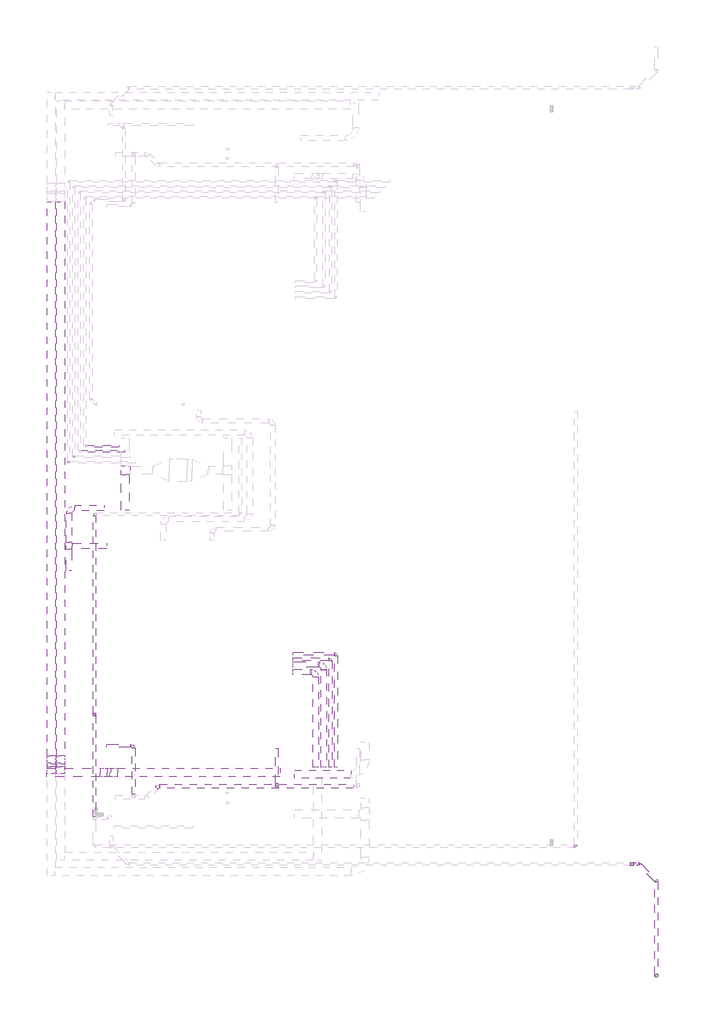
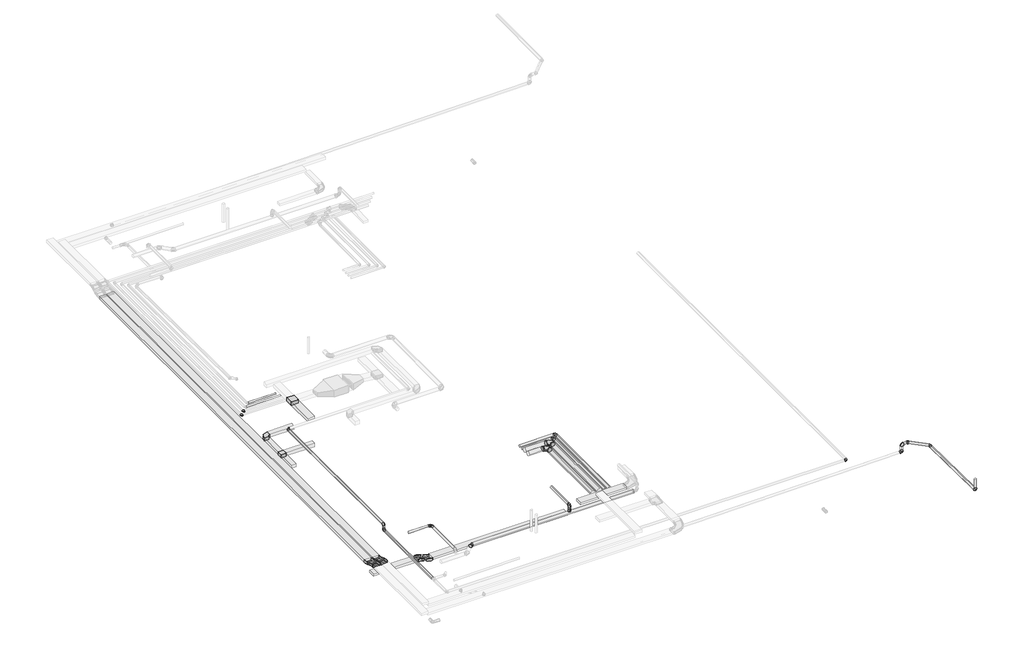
# One storey, part 2 of 5: 18 pipe segments, 15 pipe fittings, 10 duct segments, 8 cable carrier segments, 7 duct fittings, 6 cable carrier fittings.
"""IFC4 building model written with IfcOpenShell, lengths in millimetres."""

from ifc_helpers import new_model, si_unit, point, frame, frame_2d, origin, place, context, project, spatial, polyline, circle_curve, trimmed, segment, composite_curve, outline, extrude, transform, mapped, element, save
from components import m_codo_vertical_exterior_de_canal_el_547dc688, m_codo_vertical_interior_de_canal_el_a775c4ca, apt_33348139, ext_db029bdf, ext_95de42ea, m_codo_rectangular_radio_apt_1_w_a605e9b7, m_codo_redondo_ext_1_d_96ea52f9, m_codo_redondo_ext_1_d_5003ae0d, pipe_fitting_0b7fd5a4, pipe_fitting_aab77541, pipe_fitting_0af9fee6, pipe_fitting_39727cd3, pipe_fitting_3b77712d, pipe_fitting_2358b14d, pipe_fitting_3a68447e, pipe_fitting_87aeffad

model = new_model("IFC4")

# Units and contexts
model_context = context("Model", 3, world=origin())
ifc_project = project(units=[si_unit("LENGTHUNIT", "METRE", prefix="MILLI")], contexts=[model_context])

# Site, building, storey
site = spatial("IfcSite", under=ifc_project)
building = spatial("IfcBuilding", under=site)
storey = spatial("IfcBuildingStorey", under=building, Name="Nivell 04 P04_PP", Elevation=22410.0)

# Cable carrier fittings
placement = place(None, origin())
m_codo_vertical_exterior_de_canal_el_shape = m_codo_vertical_exterior_de_canal_el_547dc688(model_context)
element("IfcCableCarrierFitting", 1, ObjectType="M_Codo vertical exterior de canal : EL", at=placement, inside=storey, context=model_context, shape_type="MappedRepresentation", body=[
    mapped(m_codo_vertical_exterior_de_canal_el_shape, transform((5357.0671065, -15355.3999814, 25660.0), x_axis=(0.0, 1.0, 0.0), y_axis=(0.0, 0.0, -1.0), z_axis=(-1.0, 0.0, 0.0))),
])
element("IfcCableCarrierFitting", 2, ObjectType="M_Codo vertical exterior de canal : EL", at=placement, inside=storey, context=model_context, shape_type="MappedRepresentation", body=[
    mapped(m_codo_vertical_exterior_de_canal_el_shape, transform((5008.2381883, -15355.3999814, 25660.0), x_axis=(0.0, -0.9238795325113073, 0.38268343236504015), y_axis=(0.0, -0.38268343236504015, -0.9238795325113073), z_axis=(1.0, 0.0, 0.0))),
])
element("IfcCableCarrierFitting", 3, ObjectType="M_Codo vertical exterior de canal : EL", at=placement, inside=storey, context=model_context, shape_type="MappedRepresentation", body=[
    mapped(m_codo_vertical_exterior_de_canal_el_shape, transform((6956.7785309, -15459.2996833, 25310.0), x_axis=(1.0, 0.0, 0.0), y_axis=(0.0, 0.0, -1.0), z_axis=(0.0, 1.0, 0.0))),
])
m_codo_vertical_interior_de_canal_el_shape = m_codo_vertical_interior_de_canal_el_a775c4ca(model_context)
element("IfcCableCarrierFitting", 4, ObjectType="M_Codo vertical interior de canal : EL", at=placement, inside=storey, context=model_context, shape_type="MappedRepresentation", body=[
    mapped(m_codo_vertical_interior_de_canal_el_shape, transform((5357.0671065, -14993.267947, 25510.0), x_axis=(0.0, 0.9238795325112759, -0.38268343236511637), y_axis=(0.0, 0.38268343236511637, 0.9238795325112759), z_axis=(1.0, 0.0, 0.0))),
])
element("IfcCableCarrierFitting", 5, ObjectType="M_Codo vertical interior de canal : EL", at=placement, inside=storey, context=model_context, shape_type="MappedRepresentation", body=[
    mapped(m_codo_vertical_interior_de_canal_el_shape, transform((5008.2381883, -14993.267947, 25510.0), x_axis=(0.0, -1.0, 0.0), y_axis=(0.0, 0.0, 1.0), z_axis=(-1.0, 0.0, 0.0))),
])
element("IfcCableCarrierFitting", 6, ObjectType="M_Codo vertical interior de canal : EL", at=placement, inside=storey, context=model_context, shape_type="MappedRepresentation", body=[
    mapped(m_codo_vertical_interior_de_canal_el_shape, transform((7318.9105653, -15459.2996833, 25160.0), x_axis=(0.9238795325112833, 0.0, -0.38268343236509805), y_axis=(0.38268343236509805, 0.0, 0.9238795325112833), z_axis=(0.0, -1.0, 0.0))),
])

# Cable carrier segments
element("IfcCableCarrierSegment", 7, ObjectType="EL", at=placement, inside=storey, context=model_context, shape_type="SweptSolid", body=[
    extrude(outline(polyline([(6812.1592023, -15309.2996833), (6812.1592023, -15609.2996833), (4831.7785309, -15609.2996833), (4831.7785309, -15309.2996833), (6812.1592023, -15309.2996833)])), frame((0.0, 0.0, 25260.0), z_axis=(0.0, 0.0, 1.0), x_axis=(1.0, 0.0, 0.0)), (0.0, 0.0, 1.0), 100.0),
])
element("IfcCableCarrierSegment", 8, ObjectType="EL", at=placement, inside=storey, context=model_context, shape_type="SweptSolid", body=[
    extrude(outline(polyline([(16089.6624278, -15371.1304394), (16089.6624278, -15671.1304394), (14011.0671065, -15671.1304394), (14011.0671065, -15371.1304394), (16089.6624278, -15371.1304394)])), frame((0.0, 0.0, 25460.0), z_axis=(0.0, 0.0, 1.0), x_axis=(1.0, 0.0, 0.0)), (0.0, 0.0, 1.0), 100.0),
])
element("IfcCableCarrierSegment", 9, ObjectType="EL", at=placement, inside=storey, context=model_context, shape_type="SweptSolid", body=[
    extrude(outline(polyline([(0.0, -300.0), (0.0, 0.0), (102.7302323, 0.0), (102.7302323, -300.0), (0.0, -300.0)])), frame((5207.0671065, -15240.9233153, 25558.4626023), z_axis=(0.0, 0.38268343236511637, 0.9238795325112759), x_axis=(0.0, 0.9238795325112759, -0.38268343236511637)), (0.0, 0.0, 1.0), 100.0),
])
element("IfcCableCarrierSegment", 10, ObjectType="EL", at=placement, inside=storey, context=model_context, shape_type="SweptSolid", body=[
    extrude(outline(polyline([(5507.0671065, -14848.6486184), (5207.0671065, -14848.6486184), (5207.0671065, 5634.423571), (5507.0671065, 5634.423571), (5507.0671065, -14848.6486184)])), frame((0.0, 0.0, 25460.0), z_axis=(0.0, 0.0, 1.0), x_axis=(1.0, 0.0, 0.0)), (0.0, 0.0, 1.0), 100.0),
])
element("IfcCableCarrierSegment", 11, ObjectType="EL", at=placement, inside=storey, context=model_context, shape_type="SweptSolid", body=[
    extrude(outline(polyline([(4858.2381883, 5634.423571), (5158.2381883, 5634.423571), (5158.2381883, -14848.6486184), (4858.2381883, -14848.6486184), (4858.2381883, 5634.423571)])), frame((0.0, 0.0, 25460.0), z_axis=(0.0, 0.0, 1.0), x_axis=(1.0, 0.0, 0.0)), (0.0, 0.0, 1.0), 100.0),
])
element("IfcCableCarrierSegment", 12, ObjectType="EL", at=placement, inside=storey, context=model_context, shape_type="SweptSolid", body=[
    extrude(outline(polyline([(0.0, -300.0), (0.0, 0.0), (102.7302323, 0.0), (102.7302323, -300.0), (0.0, -300.0)])), frame((5158.2381883, -15146.0129563, 25519.1494444), z_axis=(0.0, 0.3826834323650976, 0.9238795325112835), x_axis=(0.0, -0.9238795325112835, 0.3826834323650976)), (0.0, 0.0, 1.0), 100.0),
])
element("IfcCableCarrierSegment", 13, ObjectType="EL", at=placement, inside=storey, context=model_context, shape_type="SweptSolid", body=[
    extrude(outline(polyline([(7463.5298938, -15609.2996833), (7463.5298938, -15309.2996833), (13469.9876148, -15309.2996833), (13469.9876148, -15609.2996833), (7463.5298938, -15609.2996833)])), frame((0.0, 0.0, 25110.0), z_axis=(0.0, 0.0, 1.0), x_axis=(1.0, 0.0, 0.0)), (0.0, 0.0, 1.0), 100.0),
])
element("IfcCableCarrierSegment", 14, ObjectType="EL", at=placement, inside=storey, context=model_context, shape_type="SweptSolid", body=[
    extrude(outline(polyline([(0.0, -300.0), (0.0, 0.0), (102.7302323, 0.0), (102.7302323, -300.0), (0.0, -300.0)])), frame((7071.255197, -15309.2996833, 25208.4626023), z_axis=(0.38268343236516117, 0.0, 0.9238795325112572), x_axis=(0.9238795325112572, 0.0, -0.38268343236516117)), (0.0, 0.0, 1.0), 100.0),
])

# Duct fittings
apt_shape = apt_33348139(model_context)
element("IfcDuctFitting", 15, ObjectType="M_Te rectangular : APT", at=placement, inside=storey, context=model_context, shape_type="MappedRepresentation", body=[
    mapped(apt_shape, transform((5665.7790997, -7084.7059364, 25560.0), x_axis=(0.0, 1.0, 0.0), y_axis=(-1.0, 0.0, 0.0), z_axis=(0.0, 0.0, 1.0))),
])
ext_shape = ext_db029bdf(model_context)
element("IfcDuctFitting", 16, ObjectType="M_Toma de derivación redonda : EXT", at=placement, inside=storey, context=model_context, shape_type="MappedRepresentation", body=[
    mapped(ext_shape, transform((13350.5896993, -15972.9719502, 25590.0), x_axis=(0.0, 0.0, 1.0), y_axis=(-1.0, 0.0, 0.0), z_axis=(0.0, -1.0, 0.0))),
])
ext_2_shape = ext_95de42ea(model_context)
element("IfcDuctFitting", 17, ObjectType="M_Te rectangular : EXT", at=placement, inside=storey, context=model_context, shape_type="MappedRepresentation", body=[
    mapped(ext_2_shape, transform((7746.1618177, -4289.990201, 25677.1198525), x_axis=(0.0, 1.0, 0.0), y_axis=(-1.0, 0.0, 0.0), z_axis=(0.0, 0.0, 1.0))),
])
m_codo_rectangular_radio_apt_1_w_shape = m_codo_rectangular_radio_apt_1_w_a605e9b7(model_context)
element("IfcDuctFitting", 18, ObjectType="M_Codo rectangular - Radio : APT_1 W", at=placement, inside=storey, context=model_context, shape_type="MappedRepresentation", body=[
    mapped(m_codo_rectangular_radio_apt_1_w_shape, transform((5665.7790997, -5684.7059364, 25560.0), x_axis=(-1.0, 0.0, 0.0), y_axis=(0.0, -1.0, 0.0), z_axis=(0.0, 0.0, 1.0))),
])
m_codo_redondo_ext_1_d_shape = m_codo_redondo_ext_1_d_96ea52f9(model_context)
element("IfcDuctFitting", 19, ObjectType="M_Codo redondo : EXT_1 D", at=placement, inside=storey, context=model_context, shape_type="MappedRepresentation", body=[
    mapped(m_codo_redondo_ext_1_d_shape, transform((8050.5896993, -14471.4839002, 25860.0), x_axis=(1.0, 0.0, 0.0), y_axis=(0.0, 1.0, 0.0), z_axis=(0.0, 0.0, 1.0))),
])
element("IfcDuctFitting", 20, ObjectType="M_Codo redondo : EXT_1 D", at=placement, inside=storey, context=model_context, shape_type="MappedRepresentation", body=[
    mapped(m_codo_redondo_ext_1_d_shape, transform((13350.5896993, -15972.9719502, 25860.0), x_axis=(0.0, -1.0, 0.0), y_axis=(0.0, 0.0, 1.0), z_axis=(-1.0, 0.0, 0.0))),
])
m_codo_redondo_ext_1_d_2_shape = m_codo_redondo_ext_1_d_5003ae0d(model_context)
element("IfcDuctFitting", 21, ObjectType="M_Codo redondo : EXT_1 D", at=placement, inside=storey, context=model_context, shape_type="MappedRepresentation", body=[
    mapped(m_codo_redondo_ext_1_d_2_shape, transform((8950.5896993, -15972.9719502, 25515.0), x_axis=(0.7071067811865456, 0.7071067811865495, 0.0), y_axis=(-0.7071067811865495, 0.7071067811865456, 0.0), z_axis=(0.0, 0.0, 1.0))),
])

# Duct segments
element("IfcDuctSegment", 22, ObjectType="APT_Fibra de vidre rígida", at=placement, inside=storey, context=model_context, shape_type="SweptSolid", body=[
    extrude(outline(polyline([(7065.7790997, -6984.7059364), (7065.7790997, -7184.7059364), (5790.7790997, -7184.7059364), (5790.7790997, -6984.7059364), (7065.7790997, -6984.7059364)])), frame((0.0, 0.0, 25485.0), z_axis=(0.0, 0.0, 1.0), x_axis=(1.0, 0.0, 0.0)), (0.0, 0.0, 1.0), 150.0),
])
element("IfcDuctSegment", 23, ObjectType="APT_Fibra de vidre rígida", at=placement, inside=storey, context=model_context, shape_type="SweptSolid", body=[
    extrude(outline(polyline([(5765.7790997, -6959.7059364), (5565.7790997, -6959.7059364), (5565.7790997, -5884.7059364), (5765.7790997, -5884.7059364), (5765.7790997, -6959.7059364)])), frame((0.0, 0.0, 25485.0), z_axis=(0.0, 0.0, 1.0), x_axis=(1.0, 0.0, 0.0)), (0.0, 0.0, 1.0), 150.0),
])
element("IfcDuctSegment", 24, ObjectType="APT_Fibra de vidre rígida", at=placement, inside=storey, context=model_context, shape_type="SweptSolid", body=[
    extrude(outline(polyline([(5865.7790997, -5784.7059364), (5865.7790997, -5584.7059364), (6965.7790997, -5584.7059364), (6965.7790997, -5784.7059364), (5865.7790997, -5784.7059364)])), frame((0.0, 0.0, 25485.0), z_axis=(0.0, 0.0, 1.0), x_axis=(1.0, 0.0, 0.0)), (0.0, 0.0, 1.0), 150.0),
])
element("IfcDuctSegment", 25, ObjectType="APT_Fibra de vidre rígida", at=placement, inside=storey, context=model_context, shape_type="SweptSolid", body=[
    extrude(outline(polyline([(5565.7790997, -7209.7059364), (5765.7790997, -7209.7059364), (5765.7790997, -8009.7059364), (5565.7790997, -8009.7059364), (5565.7790997, -7209.7059364)])), frame((0.0, 0.0, 25485.0), z_axis=(0.0, 0.0, 1.0), x_axis=(1.0, 0.0, 0.0)), (0.0, 0.0, 1.0), 150.0),
])
element("IfcDuctSegment", 26, ObjectType="EXT_Acer Galvanitzat - Rígid", at=placement, inside=storey, context=model_context, shape_type="SweptSolid", body=[
    extrude(outline(composite_curve([segment(trimmed(circle_curve(frame_2d((-15972.9719502, 25515.0)), 75.0), [point((-15897.9719502, 25515.0))], [point((-15972.9719502, 25440.0))], False, "CARTESIAN"), True, "CONTINUOUS"), segment(trimmed(circle_curve(frame_2d((-15972.9719502, 25515.0)), 75.0), [point((-15972.9719502, 25440.0))], [point((-16047.9719502, 25515.0))], False, "CARTESIAN"), True, "CONTINUOUS"), segment(trimmed(circle_curve(frame_2d((-15972.9719502, 25515.0)), 75.0), [point((-16047.9719502, 25515.0))], [point((-15972.9719502, 25590.0))], False, "CARTESIAN"), True, "CONTINUOUS"), segment(trimmed(circle_curve(frame_2d((-15972.9719502, 25515.0)), 75.0), [point((-15972.9719502, 25590.0))], [point((-15897.9719502, 25515.0))], False, "CARTESIAN"), True, "CONTINUOUS")], self_intersect=False)), frame((9012.7217336, 0.0, 0.0), z_axis=(1.0, 0.0, 0.0), x_axis=(0.0, 1.0, 0.0)), (0.0, 0.0, 1.0), 7177.5126266),
])
element("IfcDuctSegment", 27, ObjectType="EXT_Acer Galvanitzat - Rígid", at=placement, inside=storey, context=model_context, shape_type="SweptSolid", body=[
    extrude(outline(composite_curve([segment(trimmed(circle_curve(frame_2d((-14471.4839002, 25860.0)), 50.0), [point((-14521.4839002, 25860.0))], [point((-14471.4839002, 25910.0))], False, "CARTESIAN"), True, "CONTINUOUS"), segment(trimmed(circle_curve(frame_2d((-14471.4839002, 25860.0)), 50.0), [point((-14471.4839002, 25910.0))], [point((-14421.4839002, 25860.0))], False, "CARTESIAN"), True, "CONTINUOUS"), segment(trimmed(circle_curve(frame_2d((-14471.4839002, 25860.0)), 50.0), [point((-14421.4839002, 25860.0))], [point((-14471.4839002, 25810.0))], False, "CARTESIAN"), True, "CONTINUOUS"), segment(trimmed(circle_curve(frame_2d((-14471.4839002, 25860.0)), 50.0), [point((-14471.4839002, 25810.0))], [point((-14521.4839002, 25860.0))], False, "CARTESIAN"), True, "CONTINUOUS")], self_intersect=False)), frame((7050.5896993, 0.0, 0.0), z_axis=(1.0, 0.0, 0.0), x_axis=(0.0, 1.0, 0.0)), (0.0, 0.0, 1.0), 900.0),
])
element("IfcDuctSegment", 28, ObjectType="EXT_Acer Galvanitzat - Rígid", at=placement, inside=storey, context=model_context, shape_type="SweptSolid", body=[
    extrude(outline(composite_curve([segment(trimmed(circle_curve(frame_2d((25860.0, 8050.5896993)), 50.0), [point((25860.0, 8100.5896993))], [point((25910.0, 8050.5896993))], False, "CARTESIAN"), True, "CONTINUOUS"), segment(trimmed(circle_curve(frame_2d((25860.0, 8050.5896993)), 50.0), [point((25910.0, 8050.5896993))], [point((25860.0, 8000.5896993))], False, "CARTESIAN"), True, "CONTINUOUS"), segment(trimmed(circle_curve(frame_2d((25860.0, 8050.5896993)), 50.0), [point((25860.0, 8000.5896993))], [point((25810.0, 8050.5896993))], False, "CARTESIAN"), True, "CONTINUOUS"), segment(trimmed(circle_curve(frame_2d((25860.0, 8050.5896993)), 50.0), [point((25810.0, 8050.5896993))], [point((25860.0, 8100.5896993))], False, "CARTESIAN"), True, "CONTINUOUS")], self_intersect=False)), frame((0.0, -16269.0292533, 0.0), z_axis=(0.0, 1.0, 0.0), x_axis=(0.0, 0.0, 1.0)), (0.0, 0.0, 1.0), 1697.545353),
])
element("IfcDuctSegment", 29, ObjectType="EXT_Acer Galvanitzat - Rígid", at=placement, inside=storey, context=model_context, shape_type="SweptSolid", body=[
    extrude(outline(composite_curve([segment(trimmed(circle_curve(frame_2d((25860.0, 13350.5896993)), 50.0), [point((25860.0, 13400.5896993))], [point((25910.0, 13350.5896993))], False, "CARTESIAN"), True, "CONTINUOUS"), segment(trimmed(circle_curve(frame_2d((25860.0, 13350.5896993)), 50.0), [point((25910.0, 13350.5896993))], [point((25860.0, 13300.5896993))], False, "CARTESIAN"), True, "CONTINUOUS"), segment(trimmed(circle_curve(frame_2d((25860.0, 13350.5896993)), 50.0), [point((25860.0, 13300.5896993))], [point((25810.0, 13350.5896993))], False, "CARTESIAN"), True, "CONTINUOUS"), segment(trimmed(circle_curve(frame_2d((25860.0, 13350.5896993)), 50.0), [point((25810.0, 13350.5896993))], [point((25860.0, 13400.5896993))], False, "CARTESIAN"), True, "CONTINUOUS")], self_intersect=False)), frame((0.0, -15872.9719502, 0.0), z_axis=(0.0, 1.0, 0.0), x_axis=(0.0, 0.0, 1.0)), (0.0, 0.0, 1.0), 1301.48805),
])
element("IfcDuctSegment", 30, ObjectType="EXT_Acer Galvanitzat - Rígid", at=placement, inside=storey, context=model_context, shape_type="SweptSolid", body=[
    extrude(outline(composite_curve([segment(trimmed(circle_curve(frame_2d((13350.5896993, -15972.9719502)), 50.0), [point((13300.5896993, -15972.9719502))], [point((13350.5896993, -15922.9719502))], False, "CARTESIAN"), True, "CONTINUOUS"), segment(trimmed(circle_curve(frame_2d((13350.5896993, -15972.9719502)), 50.0), [point((13350.5896993, -15922.9719502))], [point((13400.5896993, -15972.9719502))], False, "CARTESIAN"), True, "CONTINUOUS"), segment(trimmed(circle_curve(frame_2d((13350.5896993, -15972.9719502)), 50.0), [point((13400.5896993, -15972.9719502))], [point((13350.5896993, -16022.9719502))], False, "CARTESIAN"), True, "CONTINUOUS"), segment(trimmed(circle_curve(frame_2d((13350.5896993, -15972.9719502)), 50.0), [point((13350.5896993, -16022.9719502))], [point((13300.5896993, -15972.9719502))], False, "CARTESIAN"), True, "CONTINUOUS")], self_intersect=False)), frame((0.0, 0.0, 25691.6), z_axis=(0.0, 0.0, 1.0), x_axis=(1.0, 0.0, 0.0)), (0.0, 0.0, 1.0), 68.4),
])
element("IfcDuctSegment", 31, ObjectType="EXT_Planxa galvanitzada", at=placement, inside=storey, context=model_context, shape_type="SweptSolid", body=[
    extrude(outline(polyline([(7596.1618177, -4464.9902015), (7896.1618177, -4464.9902004), (7896.1618227, -5765.056672), (7596.1618227, -5765.0566731), (7596.1618177, -4464.9902015)])), frame((0.0, 0.0, 25602.1198525), z_axis=(0.0, 0.0, 1.0), x_axis=(1.0, 0.0, 0.0)), (0.0, 0.0, 1.0), 150.0),
])

# Pipe fittings
pipe_fitting_shape = pipe_fitting_0b7fd5a4(model_context)
element("IfcPipeFitting", 32, ObjectType="M_Codo - Genérico : Estándar", at=placement, inside=storey, context=model_context, shape_type="MappedRepresentation", body=[
    mapped(pipe_fitting_shape, transform((27389.4059114, -19474.4581925, 25874.9769213), x_axis=(0.0, 0.9999500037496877, -0.009999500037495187), y_axis=(-0.9999914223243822, -4.141685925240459e-05, -0.004141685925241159), z_axis=(-0.004141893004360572, 0.009999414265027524, 0.9999414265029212))),
])
pipe_fitting_2_shape = pipe_fitting_aab77541(model_context)
element("IfcPipeFitting", 33, ObjectType="M_Codo - Genérico : Estándar", at=placement, inside=storey, context=model_context, shape_type="MappedRepresentation", body=[
    mapped(pipe_fitting_2_shape, transform((27389.4059114, -22976.7660651, 25910.0), x_axis=(0.0, 0.0, -1.0), y_axis=(0.0, 1.0, 0.0), z_axis=(1.0, 0.0, 0.0))),
])
element("IfcPipeFitting", 34, ObjectType="M_Codo - Genérico : Estándar", at=placement, inside=storey, context=model_context, shape_type="MappedRepresentation", body=[
    mapped(pipe_fitting_2_shape, transform((26487.5503889, -18840.3956727, 25512.2425601), x_axis=(0.9999500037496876, 0.0, 0.00999950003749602), y_axis=(-0.00999950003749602, 0.0, 0.9999500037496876), z_axis=(0.0, -1.0, 0.0))),
])
pipe_fitting_3_shape = pipe_fitting_0af9fee6(model_context)
element("IfcPipeFitting", 35, ObjectType="M_Codo - Genérico : Estándar", at=placement, inside=storey, context=model_context, shape_type="MappedRepresentation", body=[
    mapped(pipe_fitting_3_shape, transform((26755.352721, -18840.4049607, 25866.0030113), x_axis=(-0.7070713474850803, 0.7070713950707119, -0.010007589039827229), y_axis=(-0.7070715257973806, -0.7071299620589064, -0.0041320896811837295), z_axis=(-0.009998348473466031, 0.004154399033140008, 0.9999413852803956))),
])
pipe_fitting_4_shape = pipe_fitting_39727cd3(model_context)
element("IfcPipeFitting", 36, ObjectType="M_Codo - Genérico : Estándar", at=placement, inside=storey, context=model_context, shape_type="MappedRepresentation", body=[
    mapped(pipe_fitting_4_shape, transform((26487.5503889, -18840.4049607, 25863.3252733), x_axis=(-0.9999500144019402, 0.0, -0.009998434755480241), y_axis=(0.009998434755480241, 0.0, -0.9999500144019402), z_axis=(0.0, -1.0, 0.0))),
])
pipe_fitting_5_shape = pipe_fitting_3b77712d(model_context)
element("IfcPipeFitting", 37, ObjectType="M_Codo - Genérico : Estándar", at=placement, inside=storey, context=model_context, shape_type="MappedRepresentation", body=[
    mapped(pipe_fitting_5_shape, transform((15537.4352568, -11073.2087902, 25465.0), x_axis=(1.0, 0.0, 0.0), y_axis=(0.0, 1.0, 0.0), z_axis=(0.0, 0.0, 1.0))),
])
element("IfcPipeFitting", 38, ObjectType="M_Codo - Genérico : Estándar", at=placement, inside=storey, context=model_context, shape_type="MappedRepresentation", body=[
    mapped(pipe_fitting_5_shape, transform((15337.4352568, -11273.2087902, 25465.0), x_axis=(1.0, 0.0, 0.0), y_axis=(0.0, 1.0, 0.0), z_axis=(0.0, 0.0, 1.0))),
])
pipe_fitting_6_shape = pipe_fitting_2358b14d(model_context)
element("IfcPipeFitting", 39, ObjectType="Codo 90º Soldadura a Tope SDR 11 BluePipe : Estándar", at=placement, inside=storey, context=model_context, shape_type="MappedRepresentation", body=[
    mapped(pipe_fitting_6_shape, transform((14787.4352568, -11743.2087902, 25510.0), x_axis=(1.0, 0.0, 0.0), y_axis=(0.0, 1.0, 0.0), z_axis=(0.0, 0.0, 1.0))),
])
element("IfcPipeFitting", 40, ObjectType="Codo 90º Soldadura a Tope SDR 11 BluePipe : Estándar", at=placement, inside=storey, context=model_context, shape_type="MappedRepresentation", body=[
    mapped(pipe_fitting_6_shape, transform((15087.4352568, -11473.2087902, 25510.0), x_axis=(1.0, 0.0, 0.0), y_axis=(0.0, 1.0, 0.0), z_axis=(0.0, 0.0, 1.0))),
])
pipe_fitting_7_shape = pipe_fitting_3a68447e(model_context)
element("IfcPipeFitting", 41, ObjectType="M_Codo - Genérico : Estándar", at=placement, inside=storey, context=model_context, shape_type="MappedRepresentation", body=[
    mapped(pipe_fitting_7_shape, transform((5845.7381883, -3794.9253722, 25522.5), x_axis=(0.0, -1.0, 0.0), y_axis=(1.0, 0.0, 0.0), z_axis=(0.0, 0.0, 1.0))),
])
element("IfcPipeFitting", 42, ObjectType="M_Codo - Genérico : Estándar", at=placement, inside=storey, context=model_context, shape_type="MappedRepresentation", body=[
    mapped(pipe_fitting_7_shape, transform((5645.7381883, -3994.9253722, 25522.5), x_axis=(0.0, -1.0, 0.0), y_axis=(1.0, 0.0, 0.0), z_axis=(0.0, 0.0, 1.0))),
])
pipe_fitting_8_shape = pipe_fitting_87aeffad(model_context)
element("IfcPipeFitting", 43, ObjectType="M_Codo - Genérico : Estándar", at=placement, inside=storey, context=model_context, shape_type="MappedRepresentation", body=[
    mapped(pipe_fitting_8_shape, transform((6603.8941113, -5912.8731458, 25710.8), x_axis=(-1.0, 0.0, 0.0), y_axis=(0.0, -1.0, 0.0), z_axis=(0.0, 0.0, 1.0))),
])
element("IfcPipeFitting", 44, ObjectType="M_Codo - Genérico : Estándar", at=placement, inside=storey, context=model_context, shape_type="MappedRepresentation", body=[
    mapped(pipe_fitting_8_shape, transform((24403.8941113, -18181.6106458, 25459.2), x_axis=(1.0, 0.0, 0.0), y_axis=(0.0, 1.0, 0.0), z_axis=(0.0, 0.0, 1.0))),
])
element("IfcPipeFitting", 45, ObjectType="M_Codo - Genérico : Estándar", at=placement, inside=storey, context=model_context, shape_type="MappedRepresentation", body=[
    mapped(pipe_fitting_8_shape, transform((6603.8941113, -13317.1543958, 25459.2), x_axis=(0.0, 1.0, 0.0), y_axis=(0.0, 0.0, 1.0), z_axis=(1.0, 0.0, 0.0))),
])
element("IfcPipeFitting", 46, ObjectType="M_Codo - Genérico : Estándar", at=placement, inside=storey, context=model_context, shape_type="MappedRepresentation", body=[
    mapped(pipe_fitting_8_shape, transform((6603.8941113, -13317.1543958, 25710.8), x_axis=(0.0, -1.0, 0.0), y_axis=(0.0, 0.0, -1.0), z_axis=(1.0, 0.0, 0.0))),
])

# Pipe segments
element("IfcPipeSegment", 47, ObjectType="PVC_Baixant", at=placement, inside=storey, context=model_context, shape_type="SweptSolid", body=[
    extrude(outline(composite_curve([segment(trimmed(circle_curve(frame_2d((27389.4059114, -22976.7660651)), 55.0), [point((27334.4059114, -22976.7660651))], [point((27389.4059114, -22921.7660651))], False, "CARTESIAN"), True, "CONTINUOUS"), segment(trimmed(circle_curve(frame_2d((27389.4059114, -22976.7660651)), 55.0), [point((27389.4059114, -22921.7660651))], [point((27444.4059114, -22976.7660651))], False, "CARTESIAN"), True, "CONTINUOUS"), segment(trimmed(circle_curve(frame_2d((27389.4059114, -22976.7660651)), 55.0), [point((27444.4059114, -22976.7660651))], [point((27389.4059114, -23031.7660651))], False, "CARTESIAN"), True, "CONTINUOUS"), segment(trimmed(circle_curve(frame_2d((27389.4059114, -22976.7660651)), 55.0), [point((27389.4059114, -23031.7660651))], [point((27334.4059114, -22976.7660651))], False, "CARTESIAN"), True, "CONTINUOUS")], self_intersect=False)), frame((0.0, 0.0, 25972.3112718), z_axis=(0.0, 0.0, 1.0), x_axis=(1.0, 0.0, 0.0)), (0.0, 0.0, 1.0), 437.6887282),
])
element("IfcPipeSegment", 48, ObjectType="PVC_Baixant", at=placement, inside=storey, context=model_context, shape_type="SweptSolid", body=[
    extrude(outline(composite_curve([segment(trimmed(circle_curve(frame_2d((0.0, -55.0)), 55.0), [point((55.0, -55.0))], [point((0.0, -110.0))], False, "CARTESIAN"), True, "CONTINUOUS"), segment(trimmed(circle_curve(frame_2d((0.0, -55.0)), 55.0), [point((0.0, -110.0))], [point((-55.0, -55.0))], False, "CARTESIAN"), True, "CONTINUOUS"), segment(trimmed(circle_curve(frame_2d((0.0, -55.0)), 55.0), [point((-55.0, -55.0))], [point((0.0, 0.0))], False, "CARTESIAN"), True, "CONTINUOUS"), segment(trimmed(circle_curve(frame_2d((0.0, -55.0)), 55.0), [point((0.0, 0.0))], [point((55.0, -55.0))], False, "CARTESIAN"), True, "CONTINUOUS")], self_intersect=False)), frame((27389.4059114, -19499.9749558, 25930.2348388), z_axis=(0.0, -0.9999500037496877, 0.009999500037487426), x_axis=(1.0, 0.0, 0.0)), (0.0, 0.0, 1.0), 3414.1036727),
])
element("IfcPipeSegment", 49, ObjectType="PVC_Baixant", at=placement, inside=storey, context=model_context, shape_type="SweptSolid", body=[
    extrude(outline(composite_curve([segment(trimmed(circle_curve(frame_2d((0.0, -55.0)), 55.0), [point((54.997246, -54.4496102))], [point((0.5503897, -109.9972461))], False, "CARTESIAN"), True, "CONTINUOUS"), segment(trimmed(circle_curve(frame_2d((0.0, -55.0)), 55.0), [point((0.5503897, -109.9972461))], [point((-54.997246, -55.5503898))], False, "CARTESIAN"), True, "CONTINUOUS"), segment(trimmed(circle_curve(frame_2d((0.0, -55.0)), 55.0), [point((-54.997246, -55.5503898))], [point((-0.5503899, -0.0027539))], False, "CARTESIAN"), True, "CONTINUOUS"), segment(trimmed(circle_curve(frame_2d((0.0, -55.0)), 55.0), [point((-0.5503899, -0.0027539))], [point((54.997246, -54.4496102))], False, "CARTESIAN"), True, "CONTINUOUS")], self_intersect=False)), frame((26773.7846855, -18858.0585576, 25921.2583814), z_axis=(0.7070713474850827, -0.7070713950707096, 0.010007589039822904), x_axis=(0.7071422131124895, 0.7070005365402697, -0.010006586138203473)), (0.0, 0.0, 1.0), 844.5954746),
])
element("IfcPipeSegment", 50, ObjectType="PVC_Baixant", at=placement, inside=storey, context=model_context, shape_type="SweptSolid", body=[
    extrude(outline(composite_curve([segment(trimmed(circle_curve(frame_2d((0.0, -55.0)), 55.0), [point((0.0, 0.0))], [point((55.0, -55.0))], False, "CARTESIAN"), True, "CONTINUOUS"), segment(trimmed(circle_curve(frame_2d((0.0, -55.0)), 55.0), [point((55.0, -55.0))], [point((0.0, -110.0))], False, "CARTESIAN"), True, "CONTINUOUS"), segment(trimmed(circle_curve(frame_2d((0.0, -55.0)), 55.0), [point((0.0, -110.0))], [point((-55.0, -55.0))], False, "CARTESIAN"), True, "CONTINUOUS"), segment(trimmed(circle_curve(frame_2d((0.0, -55.0)), 55.0), [point((-55.0, -55.0))], [point((0.0, 0.0))], False, "CARTESIAN"), True, "CONTINUOUS")], self_intersect=False)), frame((26549.8586125, -18785.4049607, 25863.9482891), z_axis=(0.9999500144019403, 0.0, 0.009998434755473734), x_axis=(0.009998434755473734, 0.0, -0.9999500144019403)), (0.0, 0.0, 1.0), 179.4363416),
])
element("IfcPipeSegment", 51, ObjectType="PVC_Baixant", at=placement, inside=storey, context=model_context, shape_type="SweptSolid", body=[
    extrude(outline(composite_curve([segment(trimmed(circle_curve(frame_2d((0.0, 54.9999999)), 55.0), [point((-55.0, 54.9999999))], [point((0.0, 110.0))], False, "CARTESIAN"), True, "CONTINUOUS"), segment(trimmed(circle_curve(frame_2d((0.0, 54.9999999)), 55.0), [point((0.0, 110.0))], [point((55.0, 54.9999999))], False, "CARTESIAN"), True, "CONTINUOUS"), segment(trimmed(circle_curve(frame_2d((0.0, 54.9999999)), 55.0), [point((55.0, 54.9999999))], [point((0.0, 0.0))], False, "CARTESIAN"), True, "CONTINUOUS"), segment(trimmed(circle_curve(frame_2d((0.0, 54.9999999)), 55.0), [point((0.0, 0.0))], [point((-55.0, 54.9999999))], False, "CARTESIAN"), True, "CONTINUOUS")], self_intersect=False)), frame((26487.5503889, -18895.3956726, 25574.5515761), z_axis=(0.0, -4.1014092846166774e-05, 0.9999999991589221), x_axis=(1.0, 0.0, 0.0)), (0.0, 0.0, 1.0), 226.4600963),
])
element("IfcPipeSegment", 52, ObjectType="PPR_CLI_Aquatherm Blue Pipe", at=placement, inside=storey, context=model_context, shape_type="SweptSolid", body=[
    extrude(outline(composite_curve([segment(trimmed(circle_curve(frame_2d((-3394.9253722, 25522.5)), 37.5), [point((-3432.4253722, 25522.5))], [point((-3394.9253722, 25560.0))], False, "CARTESIAN"), True, "CONTINUOUS"), segment(trimmed(circle_curve(frame_2d((-3394.9253722, 25522.5)), 37.5), [point((-3394.9253722, 25560.0))], [point((-3357.4253722, 25522.5))], False, "CARTESIAN"), True, "CONTINUOUS"), segment(trimmed(circle_curve(frame_2d((-3394.9253722, 25522.5)), 37.5), [point((-3357.4253722, 25522.5))], [point((-3394.9253722, 25485.0))], False, "CARTESIAN"), True, "CONTINUOUS"), segment(trimmed(circle_curve(frame_2d((-3394.9253722, 25522.5)), 37.5), [point((-3394.9253722, 25485.0))], [point((-3432.4253722, 25522.5))], False, "CARTESIAN"), True, "CONTINUOUS")], self_intersect=False)), frame((6291.1756883, 0.0, 0.0), z_axis=(1.0, 0.0, 0.0), x_axis=(0.0, 1.0, 0.0)), (0.0, 0.0, 1.0), 1234.603417),
])
element("IfcPipeSegment", 53, ObjectType="PPR_CLI_Aquatherm Blue Pipe", at=placement, inside=storey, context=model_context, shape_type="SweptSolid", body=[
    extrude(outline(composite_curve([segment(trimmed(circle_curve(frame_2d((-3594.9253722, 25522.5)), 37.5), [point((-3632.4253722, 25522.5))], [point((-3594.9253722, 25560.0))], False, "CARTESIAN"), True, "CONTINUOUS"), segment(trimmed(circle_curve(frame_2d((-3594.9253722, 25522.5)), 37.5), [point((-3594.9253722, 25560.0))], [point((-3557.4253722, 25522.5))], False, "CARTESIAN"), True, "CONTINUOUS"), segment(trimmed(circle_curve(frame_2d((-3594.9253722, 25522.5)), 37.5), [point((-3557.4253722, 25522.5))], [point((-3594.9253722, 25485.0))], False, "CARTESIAN"), True, "CONTINUOUS"), segment(trimmed(circle_curve(frame_2d((-3594.9253722, 25522.5)), 37.5), [point((-3594.9253722, 25485.0))], [point((-3632.4253722, 25522.5))], False, "CARTESIAN"), True, "CONTINUOUS")], self_intersect=False)), frame((6091.1756883, 0.0, 0.0), z_axis=(1.0, 0.0, 0.0), x_axis=(0.0, 1.0, 0.0)), (0.0, 0.0, 1.0), 1634.603417),
])
element("IfcPipeSegment", 54, ObjectType="PPR_CLI_Aquatherm Blue Pipe", at=placement, inside=storey, context=model_context, shape_type="SweptSolid", body=[
    extrude(outline(composite_curve([segment(trimmed(circle_curve(frame_2d((-11743.2087902, 25510.0)), 100.0), [point((-11643.2087902, 25510.0))], [point((-11743.2087902, 25410.0))], False, "CARTESIAN"), True, "CONTINUOUS"), segment(trimmed(circle_curve(frame_2d((-11743.2087902, 25510.0)), 100.0), [point((-11743.2087902, 25410.0))], [point((-11843.2087902, 25510.0))], False, "CARTESIAN"), True, "CONTINUOUS"), segment(trimmed(circle_curve(frame_2d((-11743.2087902, 25510.0)), 100.0), [point((-11843.2087902, 25510.0))], [point((-11743.2087902, 25610.0))], False, "CARTESIAN"), True, "CONTINUOUS"), segment(trimmed(circle_curve(frame_2d((-11743.2087902, 25510.0)), 100.0), [point((-11743.2087902, 25610.0))], [point((-11643.2087902, 25510.0))], False, "CARTESIAN"), True, "CONTINUOUS")], self_intersect=False)), frame((13947.4352568, 0.0, 0.0), z_axis=(1.0, 0.0, 0.0), x_axis=(0.0, 1.0, 0.0)), (0.0, 0.0, 1.0), 665.0),
])
element("IfcPipeSegment", 55, ObjectType="PPR_CLI_Aquatherm Blue Pipe", at=placement, inside=storey, context=model_context, shape_type="SweptSolid", body=[
    extrude(outline(composite_curve([segment(trimmed(circle_curve(frame_2d((25510.0, 14787.4352568)), 100.0), [point((25510.0, 14687.4352568))], [point((25410.0, 14787.4352568))], False, "CARTESIAN"), True, "CONTINUOUS"), segment(trimmed(circle_curve(frame_2d((25510.0, 14787.4352568)), 100.0), [point((25410.0, 14787.4352568))], [point((25510.0, 14887.4352568))], False, "CARTESIAN"), True, "CONTINUOUS"), segment(trimmed(circle_curve(frame_2d((25510.0, 14787.4352568)), 100.0), [point((25510.0, 14887.4352568))], [point((25610.0, 14787.4352568))], False, "CARTESIAN"), True, "CONTINUOUS"), segment(trimmed(circle_curve(frame_2d((25510.0, 14787.4352568)), 100.0), [point((25610.0, 14787.4352568))], [point((25510.0, 14687.4352568))], False, "CARTESIAN"), True, "CONTINUOUS")], self_intersect=False)), frame((0.0, -15273.2087902, 0.0), z_axis=(0.0, 1.0, 0.0), x_axis=(0.0, 0.0, 1.0)), (0.0, 0.0, 1.0), 3355.0),
])
element("IfcPipeSegment", 56, ObjectType="PPR_CLI_Aquatherm Blue Pipe", at=placement, inside=storey, context=model_context, shape_type="SweptSolid", body=[
    extrude(outline(composite_curve([segment(trimmed(circle_curve(frame_2d((25510.0, 15087.4352568)), 100.0), [point((25510.0, 14987.4352568))], [point((25410.0, 15087.4352568))], False, "CARTESIAN"), True, "CONTINUOUS"), segment(trimmed(circle_curve(frame_2d((25510.0, 15087.4352568)), 100.0), [point((25410.0, 15087.4352568))], [point((25510.0, 15187.4352568))], False, "CARTESIAN"), True, "CONTINUOUS"), segment(trimmed(circle_curve(frame_2d((25510.0, 15087.4352568)), 100.0), [point((25510.0, 15187.4352568))], [point((25610.0, 15087.4352568))], False, "CARTESIAN"), True, "CONTINUOUS"), segment(trimmed(circle_curve(frame_2d((25510.0, 15087.4352568)), 100.0), [point((25610.0, 15087.4352568))], [point((25510.0, 14987.4352568))], False, "CARTESIAN"), True, "CONTINUOUS")], self_intersect=False)), frame((0.0, -15273.2087902, 0.0), z_axis=(0.0, 1.0, 0.0), x_axis=(0.0, 0.0, 1.0)), (0.0, 0.0, 1.0), 3625.0),
])
element("IfcPipeSegment", 57, ObjectType="PPR_CLI_Aquatherm Blue Pipe", at=placement, inside=storey, context=model_context, shape_type="SweptSolid", body=[
    extrude(outline(composite_curve([segment(trimmed(circle_curve(frame_2d((25465.0, 15337.4352568)), 55.0), [point((25465.0, 15282.4352568))], [point((25410.0, 15337.4352568))], False, "CARTESIAN"), True, "CONTINUOUS"), segment(trimmed(circle_curve(frame_2d((25465.0, 15337.4352568)), 55.0), [point((25410.0, 15337.4352568))], [point((25465.0, 15392.4352568))], False, "CARTESIAN"), True, "CONTINUOUS"), segment(trimmed(circle_curve(frame_2d((25465.0, 15337.4352568)), 55.0), [point((25465.0, 15392.4352568))], [point((25520.0, 15337.4352568))], False, "CARTESIAN"), True, "CONTINUOUS"), segment(trimmed(circle_curve(frame_2d((25465.0, 15337.4352568)), 55.0), [point((25520.0, 15337.4352568))], [point((25465.0, 15282.4352568))], False, "CARTESIAN"), True, "CONTINUOUS")], self_intersect=False)), frame((0.0, -15273.2087902, 0.0), z_axis=(0.0, 1.0, 0.0), x_axis=(0.0, 0.0, 1.0)), (0.0, 0.0, 1.0), 3937.0625),
])
element("IfcPipeSegment", 58, ObjectType="PPR_CLI_Aquatherm Blue Pipe", at=placement, inside=storey, context=model_context, shape_type="SweptSolid", body=[
    extrude(outline(composite_curve([segment(trimmed(circle_curve(frame_2d((25465.0, 15537.4352568)), 55.0), [point((25465.0, 15482.4352568))], [point((25410.0, 15537.4352568))], False, "CARTESIAN"), True, "CONTINUOUS"), segment(trimmed(circle_curve(frame_2d((25465.0, 15537.4352568)), 55.0), [point((25410.0, 15537.4352568))], [point((25465.0, 15592.4352568))], False, "CARTESIAN"), True, "CONTINUOUS"), segment(trimmed(circle_curve(frame_2d((25465.0, 15537.4352568)), 55.0), [point((25465.0, 15592.4352568))], [point((25520.0, 15537.4352568))], False, "CARTESIAN"), True, "CONTINUOUS"), segment(trimmed(circle_curve(frame_2d((25465.0, 15537.4352568)), 55.0), [point((25520.0, 15537.4352568))], [point((25465.0, 15482.4352568))], False, "CARTESIAN"), True, "CONTINUOUS")], self_intersect=False)), frame((0.0, -15273.2087902, 0.0), z_axis=(0.0, 1.0, 0.0), x_axis=(0.0, 0.0, 1.0)), (0.0, 0.0, 1.0), 4137.0625),
])
element("IfcPipeSegment", 59, ObjectType="PPR_CLI_Aquatherm Blue Pipe", at=placement, inside=storey, context=model_context, shape_type="SweptSolid", body=[
    extrude(outline(composite_curve([segment(trimmed(circle_curve(frame_2d((-11473.2087902, 25510.0)), 100.0), [point((-11373.2087902, 25510.0))], [point((-11473.2087902, 25410.0))], False, "CARTESIAN"), True, "CONTINUOUS"), segment(trimmed(circle_curve(frame_2d((-11473.2087902, 25510.0)), 100.0), [point((-11473.2087902, 25410.0))], [point((-11573.2087902, 25510.0))], False, "CARTESIAN"), True, "CONTINUOUS"), segment(trimmed(circle_curve(frame_2d((-11473.2087902, 25510.0)), 100.0), [point((-11573.2087902, 25510.0))], [point((-11473.2087902, 25610.0))], False, "CARTESIAN"), True, "CONTINUOUS"), segment(trimmed(circle_curve(frame_2d((-11473.2087902, 25510.0)), 100.0), [point((-11473.2087902, 25610.0))], [point((-11373.2087902, 25510.0))], False, "CARTESIAN"), True, "CONTINUOUS")], self_intersect=False)), frame((13947.4352568, 0.0, 0.0), z_axis=(1.0, 0.0, 0.0), x_axis=(0.0, 1.0, 0.0)), (0.0, 0.0, 1.0), 965.0),
])
element("IfcPipeSegment", 60, ObjectType="PPR_CLI_Aquatherm Blue Pipe", at=placement, inside=storey, context=model_context, shape_type="SweptSolid", body=[
    extrude(outline(composite_curve([segment(trimmed(circle_curve(frame_2d((-11273.2087902, 25465.0)), 55.0), [point((-11218.2087902, 25465.0))], [point((-11273.2087902, 25410.0))], False, "CARTESIAN"), True, "CONTINUOUS"), segment(trimmed(circle_curve(frame_2d((-11273.2087902, 25465.0)), 55.0), [point((-11273.2087902, 25410.0))], [point((-11328.2087902, 25465.0))], False, "CARTESIAN"), True, "CONTINUOUS"), segment(trimmed(circle_curve(frame_2d((-11273.2087902, 25465.0)), 55.0), [point((-11328.2087902, 25465.0))], [point((-11273.2087902, 25520.0))], False, "CARTESIAN"), True, "CONTINUOUS"), segment(trimmed(circle_curve(frame_2d((-11273.2087902, 25465.0)), 55.0), [point((-11273.2087902, 25520.0))], [point((-11218.2087902, 25465.0))], False, "CARTESIAN"), True, "CONTINUOUS")], self_intersect=False)), frame((13947.4352568, 0.0, 0.0), z_axis=(1.0, 0.0, 0.0), x_axis=(0.0, 1.0, 0.0)), (0.0, 0.0, 1.0), 1327.0625),
])
element("IfcPipeSegment", 61, ObjectType="PPR_CLI_Aquatherm Blue Pipe", at=placement, inside=storey, context=model_context, shape_type="SweptSolid", body=[
    extrude(outline(composite_curve([segment(trimmed(circle_curve(frame_2d((-11073.2087902, 25465.0)), 55.0), [point((-11018.2087902, 25465.0))], [point((-11073.2087902, 25410.0))], False, "CARTESIAN"), True, "CONTINUOUS"), segment(trimmed(circle_curve(frame_2d((-11073.2087902, 25465.0)), 55.0), [point((-11073.2087902, 25410.0))], [point((-11128.2087902, 25465.0))], False, "CARTESIAN"), True, "CONTINUOUS"), segment(trimmed(circle_curve(frame_2d((-11073.2087902, 25465.0)), 55.0), [point((-11128.2087902, 25465.0))], [point((-11073.2087902, 25520.0))], False, "CARTESIAN"), True, "CONTINUOUS"), segment(trimmed(circle_curve(frame_2d((-11073.2087902, 25465.0)), 55.0), [point((-11073.2087902, 25520.0))], [point((-11018.2087902, 25465.0))], False, "CARTESIAN"), True, "CONTINUOUS")], self_intersect=False)), frame((13947.4352568, 0.0, 0.0), z_axis=(1.0, 0.0, 0.0), x_axis=(0.0, 1.0, 0.0)), (0.0, 0.0, 1.0), 1527.0625),
])
element("IfcPipeSegment", 62, ObjectType="AN_CI", at=placement, inside=storey, context=model_context, shape_type="SweptSolid", body=[
    extrude(outline(composite_curve([segment(trimmed(circle_curve(frame_2d((25459.2, 6603.8941113)), 50.8), [point((25459.2, 6654.6941113))], [point((25510.0, 6603.8941113))], False, "CARTESIAN"), True, "CONTINUOUS"), segment(trimmed(circle_curve(frame_2d((25459.2, 6603.8941113)), 50.8), [point((25510.0, 6603.8941113))], [point((25459.2, 6553.0941113))], False, "CARTESIAN"), True, "CONTINUOUS"), segment(trimmed(circle_curve(frame_2d((25459.2, 6603.8941113)), 50.8), [point((25459.2, 6553.0941113))], [point((25408.4, 6603.8941113))], False, "CARTESIAN"), True, "CONTINUOUS"), segment(trimmed(circle_curve(frame_2d((25459.2, 6603.8941113)), 50.8), [point((25408.4, 6603.8941113))], [point((25459.2, 6654.6941113))], False, "CARTESIAN"), True, "CONTINUOUS")], self_intersect=False)), frame((0.0, -17094.1356458, 0.0), z_axis=(0.0, 1.0, 0.0), x_axis=(0.0, 0.0, 1.0)), (0.0, 0.0, 1.0), 3724.59375),
])
element("IfcPipeSegment", 63, ObjectType="AN_CI", at=placement, inside=storey, context=model_context, shape_type="SweptSolid", body=[
    extrude(outline(composite_curve([segment(trimmed(circle_curve(frame_2d((25710.8, 6603.8941113)), 50.8), [point((25710.8, 6553.0941113))], [point((25660.0, 6603.8941113))], False, "CARTESIAN"), True, "CONTINUOUS"), segment(trimmed(circle_curve(frame_2d((25710.8, 6603.8941113)), 50.8), [point((25660.0, 6603.8941113))], [point((25710.8, 6654.6941113))], False, "CARTESIAN"), True, "CONTINUOUS"), segment(trimmed(circle_curve(frame_2d((25710.8, 6603.8941113)), 50.8), [point((25710.8, 6654.6941113))], [point((25761.6, 6603.8941113))], False, "CARTESIAN"), True, "CONTINUOUS"), segment(trimmed(circle_curve(frame_2d((25710.8, 6603.8941113)), 50.8), [point((25761.6, 6603.8941113))], [point((25710.8, 6553.0941113))], False, "CARTESIAN"), True, "CONTINUOUS")], self_intersect=False)), frame((0.0, -13264.7668958, 0.0), z_axis=(0.0, 1.0, 0.0), x_axis=(0.0, 0.0, 1.0)), (0.0, 0.0, 1.0), 7299.50625),
])
element("IfcPipeSegment", 64, ObjectType="AN_CI", at=placement, inside=storey, context=model_context, shape_type="SweptSolid", body=[
    extrude(outline(composite_curve([segment(trimmed(circle_curve(frame_2d((6603.8941113, -13317.1543958)), 50.8), [point((6553.0941113, -13317.1543958))], [point((6603.8941113, -13266.3543958))], False, "CARTESIAN"), True, "CONTINUOUS"), segment(trimmed(circle_curve(frame_2d((6603.8941113, -13317.1543958)), 50.8), [point((6603.8941113, -13266.3543958))], [point((6654.6941113, -13317.1543958))], False, "CARTESIAN"), True, "CONTINUOUS"), segment(trimmed(circle_curve(frame_2d((6603.8941113, -13317.1543958)), 50.8), [point((6654.6941113, -13317.1543958))], [point((6603.8941113, -13367.9543958))], False, "CARTESIAN"), True, "CONTINUOUS"), segment(trimmed(circle_curve(frame_2d((6603.8941113, -13317.1543958)), 50.8), [point((6603.8941113, -13367.9543958))], [point((6553.0941113, -13317.1543958))], False, "CARTESIAN"), True, "CONTINUOUS")], self_intersect=False)), frame((0.0, 0.0, 25511.5875), z_axis=(0.0, 0.0, 1.0), x_axis=(1.0, 0.0, 0.0)), (0.0, 0.0, 1.0), 146.825),
])

save(model, "model.ifc")
